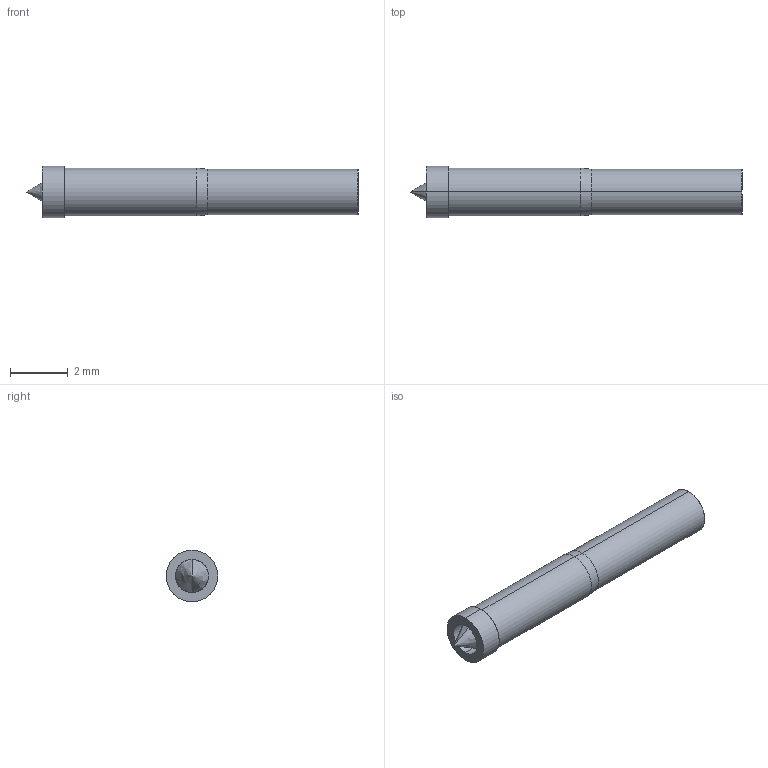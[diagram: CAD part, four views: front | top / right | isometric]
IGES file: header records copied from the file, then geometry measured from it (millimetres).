
Start section: SolidWorks IGES file using analytic representation for surfaces
Global section: file name: O:\PYLON\IGES FILES\E-S\E-S-C REC'D.IGS; native system: SolidWorks 2015; preprocessor: SolidWorks 2015; author: kgolden; date: 171024.083042; units: inch
Bounding box: 11.48 x 1.78 x 1.78 mm (x, y, z)
Surface area: 72.3 mm2 (no closed solid volume)
Topology: 0 solids, 0 shells, 18 faces, 200 edges, 198 vertices
Faces by surface type: revolution 14, bspline 4
